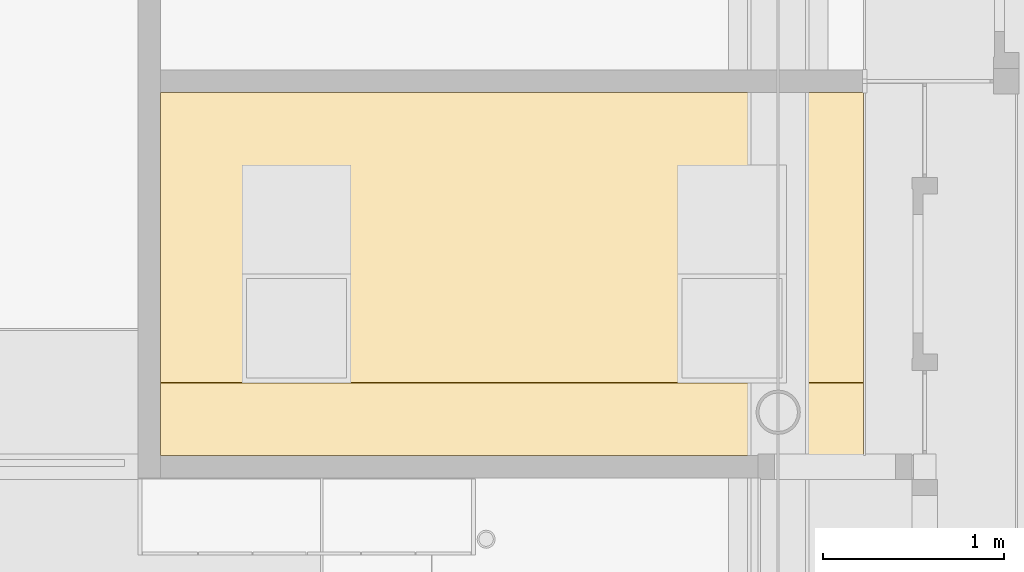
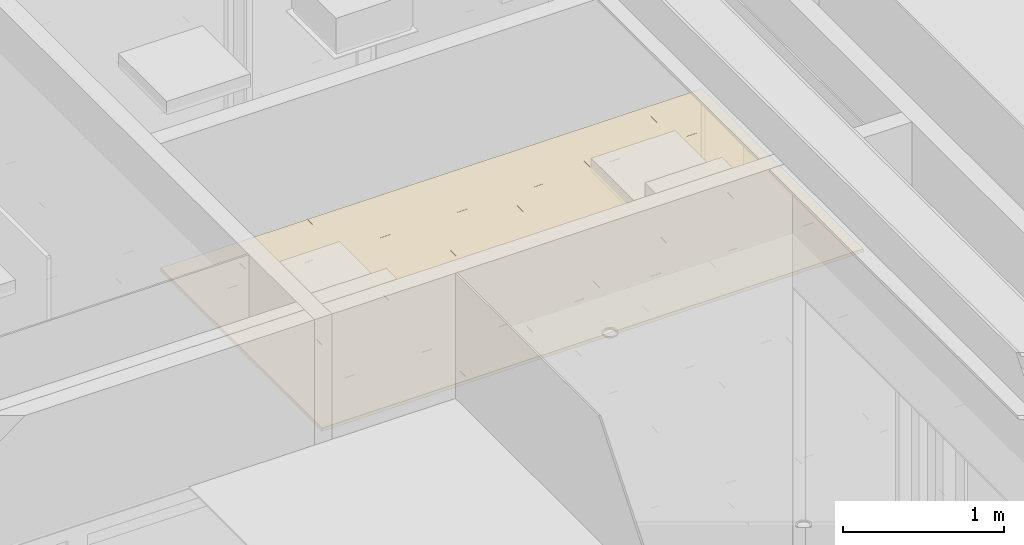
# One storey, part 172 of 347: 1 covering.
"""IFC2X3 building model written with IfcOpenShell, lengths in millimetres."""

from ifc_helpers import new_model, entity, si_unit, converted_unit, derived_unit, money_unit, direction, frame, origin_with_axes, place, context, subcontext, project, spatial, faceted_brep, type_object, element, save


model = new_model("IFC2X3")

# Units and contexts
model_context = context("Model", 3, precision=0.01, world=origin_with_axes(), true_north=direction((0.0, 1.0)))
plan_context = context("Plan", 3, precision=0.01, world=origin_with_axes(), true_north=direction((0.0, 1.0)))
body_context = subcontext(model_context, "Body", "Model", "MODEL_VIEW")
ifc_project = project(units=[si_unit("LENGTHUNIT", "METRE", prefix="MILLI"), si_unit("AREAUNIT", "SQUARE_METRE"), si_unit("VOLUMEUNIT", "CUBIC_METRE"), converted_unit("PLANEANGLEUNIT", "DEGREE", entity("IfcPlaneAngleMeasure", 0.0174532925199), si_unit("PLANEANGLEUNIT", "RADIAN"), dimensions=[0, 0, 0, 0, 0, 0, 0]), money_unit("EUR"), converted_unit("TIMEUNIT", "Year", entity("IfcTimeMeasure", 31556926.0), si_unit("TIMEUNIT", "SECOND"), dimensions=[0, 0, 1, 0, 0, 0, 0]), si_unit("MASSUNIT", "GRAM", prefix="KILO"), si_unit("THERMODYNAMICTEMPERATUREUNIT", "DEGREE_CELSIUS"), si_unit("LUMINOUSINTENSITYUNIT", "LUMEN"), si_unit("ENERGYUNIT", "JOULE", prefix="MEGA"), derived_unit("THERMALCONDUCTANCEUNIT", [(si_unit("POWERUNIT", "WATT"), 1), (si_unit("LENGTHUNIT", "METRE"), -1), (si_unit("THERMODYNAMICTEMPERATUREUNIT", "KELVIN"), -1)]), derived_unit("SPECIFICHEATCAPACITYUNIT", [(si_unit("ENERGYUNIT", "JOULE"), 1), (si_unit("MASSUNIT", "GRAM", prefix="KILO"), -1), (si_unit("THERMODYNAMICTEMPERATUREUNIT", "KELVIN"), -1)]), derived_unit("MASSDENSITYUNIT", [(si_unit("MASSUNIT", "GRAM", prefix="KILO"), 1), (si_unit("VOLUMEUNIT", "CUBIC_METRE"), -1)])], contexts=[model_context, plan_context])

# Site, building, storey
site_placement = place(None, origin_with_axes())
site = spatial("IfcSite", under=ifc_project, at=site_placement, Name="Site", CompositionType="ELEMENT")
building_placement = place(site_placement, origin_with_axes())
building = spatial("IfcBuilding", under=site, at=building_placement, Name="Naam gebouw", CompositionType="ELEMENT")
storey_placement = place(building_placement, origin_with_axes())
storey = spatial("IfcBuildingStorey", under=building, at=storey_placement, Name="begane grond", CompositionType="ELEMENT", Elevation=0.0)

# Covering
covering_type = type_object("IfcCoveringType", Name="Ceiling Editor INT_v2.01", PredefinedType="CEILING")
covering_placement = place(storey_placement, frame((32200.0, 39087.5, 2600.0), z_axis=(0.0, 0.0, 1.0), x_axis=(1.0, 0.0, 0.0)))
element("IfcCovering", 1, at=covering_placement, inside=storey, type_object=covering_type, Name="45 Plafondafwerkingen_77 garderobe", PredefinedType="CEILING", context=body_context, shape_type="Brep", body=[
    faceted_brep([(0.0, 0.0, 20.0), (449.9, 0.0, 20.0), (449.9, 399.9, 20.0), (0.0, 399.9, 20.0), (0.0, 0.0, 0.0), (449.9, 0.0, 0.0), (449.9, 399.9, 0.0), (0.0, 399.9, 0.0)], [[[0, 1, 2, 3]], [[1, 0, 4, 5]], [[1, 5, 6, 2]], [[7, 3, 2, 6]], [[3, 7, 4, 0]], [[4, 7, 6, 5]]]),
    faceted_brep([(0.0, 1599.9, 0.0), (0.0, 1599.9, 20.0), (449.9, 1599.9, 20.0), (449.9, 1599.9, 0.0), (0.0, 1500.0, 0.0), (0.0, 1500.0, 20.0), (0.0, 500.0, 20.0), (0.0, 400.1, 20.0), (449.9, 400.1, 20.0), (0.0, 1000.0, 20.0), (449.9, 400.1, 0.0), (0.0, 400.1, 0.0), (0.0, 500.0, 0.0), (0.0, 1000.0, 0.0)], [[[0, 1, 2, 3]], [[1, 0, 4, 5]], [[6, 7, 8, 2, 1, 5, 9]], [[8, 10, 3, 2]], [[4, 0, 3, 10, 11, 12, 13]], [[9, 5, 4, 13]], [[7, 6, 12, 11]], [[7, 11, 10, 8]], [[6, 9, 13, 12]]]),
    faceted_brep([(449.9, 2000.0, 0.0), (449.9, 2000.0, 20.0), (449.9, 1600.1, 20.0), (449.9, 1600.1, 0.0), (0.0, 2000.0, 0.0), (0.0, 2000.0, 20.0), (0.0, 1600.1, 20.0), (0.0, 1600.1, 0.0)], [[[0, 1, 2, 3]], [[1, 0, 4, 5]], [[5, 6, 2, 1]], [[6, 7, 3, 2]], [[4, 0, 3, 7]], [[6, 5, 4, 7]]]),
    faceted_brep([(968.75, 0.0, 20.0), (1049.9, 0.0, 20.0), (1049.9, 399.9, 20.0), (450.1, 399.9, 20.0), (450.1, 0.0, 20.0), (968.75, 0.0, 0.0), (1049.9, 0.0, 0.0), (1049.9, 399.9, 0.0), (450.1, 399.9, 0.0), (450.1, 0.0, 0.0)], [[[0, 1, 2, 3, 4]], [[1, 0, 5, 6]], [[1, 6, 7, 2]], [[2, 7, 8, 3]], [[9, 4, 3, 8]], [[0, 4, 9, 5]], [[5, 9, 8, 7, 6]]]),
    faceted_brep([(1049.9, 400.1, 20.0), (1049.9, 400.1, 0.0), (1049.9, 1599.9, 0.0), (1049.9, 1599.9, 20.0), (450.1, 400.1, 20.0), (450.1, 400.1, 0.0), (450.1, 1599.9, 0.0), (450.1, 1599.9, 20.0)], [[[0, 1, 2, 3]], [[4, 5, 1, 0]], [[2, 1, 5, 6]], [[3, 2, 6, 7]], [[4, 0, 3, 7]], [[7, 6, 5, 4]]]),
    faceted_brep([(1049.9, 2000.0, 0.0), (1049.9, 2000.0, 20.0), (1049.9, 1600.1, 20.0), (1049.9, 1600.1, 0.0), (968.75, 2000.0, 0.0), (968.75, 2000.0, 20.0), (450.1, 2000.0, 20.0), (450.1, 1600.1, 20.0), (450.1, 1600.1, 0.0), (450.1, 2000.0, 0.0)], [[[0, 1, 2, 3]], [[1, 0, 4, 5]], [[5, 6, 7, 2, 1]], [[7, 8, 3, 2]], [[4, 0, 3, 8, 9]], [[6, 5, 4, 9]], [[6, 9, 8, 7]]]),
    faceted_brep([(1050.1, 0.0, 20.0), (1649.9, 0.0, 20.0), (1649.9, 399.9, 20.0), (1050.1, 399.9, 20.0), (1050.1, 0.0, 0.0), (1649.9, 0.0, 0.0), (1649.9, 399.9, 0.0), (1050.1, 399.9, 0.0)], [[[0, 1, 2, 3]], [[1, 0, 4, 5]], [[1, 5, 6, 2]], [[2, 6, 7, 3]], [[4, 0, 3, 7]], [[5, 4, 7, 6]]]),
    faceted_brep([(1649.9, 400.1, 20.0), (1649.9, 400.1, 0.0), (1649.9, 1599.9, 0.0), (1649.9, 1599.9, 20.0), (1050.1, 400.1, 20.0), (1050.1, 400.1, 0.0), (1050.1, 1599.9, 0.0), (1050.1, 1599.9, 20.0)], [[[0, 1, 2, 3]], [[4, 5, 1, 0]], [[2, 1, 5, 6]], [[3, 2, 6, 7]], [[4, 0, 3, 7]], [[7, 6, 5, 4]]]),
    faceted_brep([(1649.9, 2000.0, 0.0), (1649.9, 2000.0, 20.0), (1649.9, 1600.1, 20.0), (1649.9, 1600.1, 0.0), (1050.1, 2000.0, 0.0), (1050.1, 2000.0, 20.0), (1050.1, 1600.1, 20.0), (1050.1, 1600.1, 0.0)], [[[0, 1, 2, 3]], [[1, 0, 4, 5]], [[1, 5, 6, 2]], [[6, 7, 3, 2]], [[4, 0, 3, 7]], [[5, 4, 7, 6]]]),
    faceted_brep([(1937.5, 0.0, 20.0), (2249.9, 0.0, 20.0), (2249.9, 399.9, 20.0), (1650.1, 399.9, 20.0), (1650.1, 0.0, 20.0), (1937.5, 0.0, 0.0), (2249.9, 0.0, 0.0), (2249.9, 399.9, 0.0), (1650.1, 399.9, 0.0), (1650.1, 0.0, 0.0)], [[[0, 1, 2, 3, 4]], [[1, 0, 5, 6]], [[1, 6, 7, 2]], [[2, 7, 8, 3]], [[9, 4, 3, 8]], [[0, 4, 9, 5]], [[5, 9, 8, 7, 6]]]),
    faceted_brep([(2249.9, 400.1, 20.0), (2249.9, 400.1, 0.0), (2249.9, 1599.9, 0.0), (2249.9, 1599.9, 20.0), (1650.1, 400.1, 20.0), (1650.1, 400.1, 0.0), (1650.1, 1599.9, 0.0), (1650.1, 1599.9, 20.0)], [[[0, 1, 2, 3]], [[4, 5, 1, 0]], [[2, 1, 5, 6]], [[3, 2, 6, 7]], [[4, 0, 3, 7]], [[7, 6, 5, 4]]]),
    faceted_brep([(2249.9, 2000.0, 0.0), (2249.9, 2000.0, 20.0), (2249.9, 1600.1, 20.0), (2249.9, 1600.1, 0.0), (1937.5, 2000.0, 0.0), (1937.5, 2000.0, 20.0), (1650.1, 2000.0, 20.0), (1650.1, 1600.1, 20.0), (1650.1, 1600.1, 0.0), (1650.1, 2000.0, 0.0)], [[[0, 1, 2, 3]], [[1, 0, 4, 5]], [[5, 6, 7, 2, 1]], [[7, 8, 3, 2]], [[4, 0, 3, 8, 9]], [[6, 5, 4, 9]], [[6, 9, 8, 7]]]),
    faceted_brep([(2250.1, 0.0, 20.0), (2849.9, 0.0, 20.0), (2849.9, 399.9, 20.0), (2250.1, 399.9, 20.0), (2250.1, 0.0, 0.0), (2849.9, 0.0, 0.0), (2849.9, 399.9, 0.0), (2250.1, 399.9, 0.0)], [[[0, 1, 2, 3]], [[1, 0, 4, 5]], [[1, 5, 6, 2]], [[2, 6, 7, 3]], [[4, 0, 3, 7]], [[5, 4, 7, 6]]]),
    faceted_brep([(2849.9, 400.1, 20.0), (2849.9, 400.1, 0.0), (2849.9, 1599.9, 0.0), (2849.9, 1599.9, 20.0), (2250.1, 400.1, 20.0), (2250.1, 400.1, 0.0), (2250.1, 1599.9, 0.0), (2250.1, 1599.9, 20.0)], [[[0, 1, 2, 3]], [[4, 5, 1, 0]], [[2, 1, 5, 6]], [[3, 2, 6, 7]], [[4, 0, 3, 7]], [[7, 6, 5, 4]]]),
    faceted_brep([(2849.9, 2000.0, 0.0), (2849.9, 2000.0, 20.0), (2849.9, 1600.1, 20.0), (2849.9, 1600.1, 0.0), (2250.1, 2000.0, 0.0), (2250.1, 2000.0, 20.0), (2250.1, 1600.1, 20.0), (2250.1, 1600.1, 0.0)], [[[0, 1, 2, 3]], [[1, 0, 4, 5]], [[1, 5, 6, 2]], [[6, 7, 3, 2]], [[4, 0, 3, 7]], [[5, 4, 7, 6]]]),
    faceted_brep([(2906.25, 0.0, 20.0), (3449.9, 0.0, 20.0), (3449.9, 399.9, 20.0), (2850.1, 399.9, 20.0), (2850.1, 0.0, 20.0), (2906.25, 0.0, 0.0), (3449.9, 0.0, 0.0), (3449.9, 399.9, 0.0), (2850.1, 399.9, 0.0), (2850.1, 0.0, 0.0)], [[[0, 1, 2, 3, 4]], [[1, 0, 5, 6]], [[1, 6, 7, 2]], [[2, 7, 8, 3]], [[9, 4, 3, 8]], [[0, 4, 9, 5]], [[5, 9, 8, 7, 6]]]),
    faceted_brep([(3449.9, 400.1, 20.0), (3449.9, 400.1, 0.0), (3449.9, 1599.9, 0.0), (3449.9, 1599.9, 20.0), (2850.1, 400.1, 20.0), (2850.1, 400.1, 0.0), (2850.1, 1599.9, 0.0), (2850.1, 1599.9, 20.0)], [[[0, 1, 2, 3]], [[4, 5, 1, 0]], [[2, 1, 5, 6]], [[3, 2, 6, 7]], [[4, 0, 3, 7]], [[7, 6, 5, 4]]]),
    faceted_brep([(3449.9, 2000.0, 0.0), (3449.9, 2000.0, 20.0), (3449.9, 1600.1, 20.0), (3449.9, 1600.1, 0.0), (2906.25, 2000.0, 0.0), (2906.25, 2000.0, 20.0), (2850.1, 2000.0, 20.0), (2850.1, 1600.1, 20.0), (2850.1, 1600.1, 0.0), (2850.1, 2000.0, 0.0)], [[[0, 1, 2, 3]], [[1, 0, 4, 5]], [[5, 6, 7, 2, 1]], [[7, 8, 3, 2]], [[4, 0, 3, 8, 9]], [[6, 5, 4, 9]], [[6, 9, 8, 7]]]),
    faceted_brep([(3875.0, 0.0, 20.0), (3875.0, 399.9, 20.0), (3450.1, 399.9, 20.0), (3450.1, 0.0, 20.0), (3875.0, 0.0, 0.0), (3875.0, 399.9, 0.0), (3450.1, 399.9, 0.0), (3450.1, 0.0, 0.0)], [[[0, 1, 2, 3]], [[1, 0, 4, 5]], [[1, 5, 6, 2]], [[7, 3, 2, 6]], [[0, 3, 7, 4]], [[4, 7, 6, 5]]]),
    faceted_brep([(3875.0, 1500.0, 20.0), (3875.0, 1599.9, 20.0), (3450.1, 1599.9, 20.0), (3450.1, 400.1, 20.0), (3875.0, 400.1, 20.0), (3875.0, 500.0, 20.0), (3875.0, 1000.0, 20.0), (3875.0, 1500.0, 0.0), (3875.0, 1599.9, 0.0), (3450.1, 1599.9, 0.0), (3450.1, 400.1, 0.0), (3875.0, 400.1, 0.0), (3875.0, 500.0, 0.0), (3875.0, 1000.0, 0.0)], [[[0, 1, 2, 3, 4, 5, 6]], [[1, 0, 7, 8]], [[1, 8, 9, 2]], [[2, 9, 10, 3]], [[11, 4, 3, 10]], [[5, 4, 11, 12]], [[6, 5, 12, 13]], [[0, 6, 13, 7]], [[12, 11, 10, 9, 8, 7, 13]]]),
    faceted_brep([(3875.0, 1600.1, 20.0), (3875.0, 2000.0, 20.0), (3450.1, 2000.0, 20.0), (3450.1, 1600.1, 20.0), (3875.0, 1600.1, 0.0), (3875.0, 2000.0, 0.0), (3450.1, 2000.0, 0.0), (3450.1, 1600.1, 0.0)], [[[0, 1, 2, 3]], [[1, 0, 4, 5]], [[2, 1, 5, 6]], [[2, 6, 7, 3]], [[4, 0, 3, 7]], [[5, 4, 7, 6]]]),
    faceted_brep([(3875.0, 0.0, 0.0), (3875.0, 0.0, -5.0), (3875.0, 387.5, -5.0), (3875.0, 412.5, -5.0), (3875.0, 1587.5, -5.0), (3875.0, 1612.5, -5.0), (3875.0, 2000.0, -5.0), (3875.0, 2000.0, 0.0), (3875.0, 1612.5, 0.0), (3875.0, 1587.5, 0.0), (3875.0, 412.5, 0.0), (3875.0, 387.5, 0.0), (1662.5, 0.0, -5.0), (2237.5, 0.0, -5.0), (2262.5, 0.0, -5.0), (2837.5, 0.0, -5.0), (2862.5, 0.0, -5.0), (3437.5, 0.0, -5.0), (3462.5, 0.0, -5.0), (3462.5, 0.0, 0.0), (3437.5, 0.0, 0.0), (2862.5, 0.0, 0.0), (2837.5, 0.0, 0.0), (2262.5, 0.0, 0.0), (2237.5, 0.0, 0.0), (1662.5, 0.0, 0.0), (1637.5, 0.0, 0.0), (1062.5, 0.0, 0.0), (1037.5, 0.0, 0.0), (462.5, 0.0, 0.0), (437.5, 0.0, 0.0), (0.0, 0.0, 0.0), (0.0, 0.0, -5.0), (437.5, 0.0, -5.0), (462.5, 0.0, -5.0), (1037.5, 0.0, -5.0), (1062.5, 0.0, -5.0), (1637.5, 0.0, -5.0), (0.0, 387.5, -5.0), (0.0, 412.5, -5.0), (0.0, 1587.5, -5.0), (0.0, 1612.5, -5.0), (0.0, 2000.0, -5.0), (437.5, 2000.0, -5.0), (462.5, 2000.0, -5.0), (1037.5, 2000.0, -5.0), (1062.5, 2000.0, -5.0), (1637.5, 2000.0, -5.0), (1662.5, 2000.0, -5.0), (2237.5, 2000.0, -5.0), (2262.5, 2000.0, -5.0), (2837.5, 2000.0, -5.0), (2862.5, 2000.0, -5.0), (3437.5, 2000.0, -5.0), (3462.5, 2000.0, -5.0), (462.5, 412.5, -5.0), (1037.5, 412.5, -5.0), (1037.5, 1587.5, -5.0), (462.5, 1587.5, -5.0), (1062.5, 412.5, -5.0), (1637.5, 412.5, -5.0), (1637.5, 1587.5, -5.0), (1062.5, 1587.5, -5.0), (1662.5, 412.5, -5.0), (2237.5, 412.5, -5.0), (2237.5, 1587.5, -5.0), (1662.5, 1587.5, -5.0), (2262.5, 412.5, -5.0), (2837.5, 412.5, -5.0), (2837.5, 1587.5, -5.0), (2262.5, 1587.5, -5.0), (2862.5, 412.5, -5.0), (3437.5, 412.5, -5.0), (3437.5, 1587.5, -5.0), (2862.5, 1587.5, -5.0), (25.0, 387.5, -5.0), (25.0, 25.0, -5.0), (437.5, 25.0, -5.0), (437.5, 387.5, -5.0), (25.0, 1587.5, -5.0), (25.0, 412.5, -5.0), (437.5, 412.5, -5.0), (437.5, 1587.5, -5.0), (437.5, 1975.0, -5.0), (25.0, 1975.0, -5.0), (25.0, 1612.5, -5.0), (437.5, 1612.5, -5.0), (1037.5, 1975.0, -5.0), (462.5, 1975.0, -5.0), (462.5, 1612.5, -5.0), (1037.5, 1612.5, -5.0), (1637.5, 1975.0, -5.0), (1062.5, 1975.0, -5.0), (1062.5, 1612.5, -5.0), (1637.5, 1612.5, -5.0), (2237.5, 1975.0, -5.0), (1662.5, 1975.0, -5.0), (1662.5, 1612.5, -5.0), (2237.5, 1612.5, -5.0), (2837.5, 1975.0, -5.0), (2262.5, 1975.0, -5.0), (2262.5, 1612.5, -5.0), (2837.5, 1612.5, -5.0), (3437.5, 1975.0, -5.0), (2862.5, 1975.0, -5.0), (2862.5, 1612.5, -5.0), (3437.5, 1612.5, -5.0), (3850.0, 1975.0, -5.0), (3462.5, 1975.0, -5.0), (3462.5, 1612.5, -5.0), (3850.0, 1612.5, -5.0), (3850.0, 1587.5, -5.0), (3462.5, 1587.5, -5.0), (3462.5, 412.5, -5.0), (3850.0, 412.5, -5.0), (3850.0, 25.0, -5.0), (3850.0, 387.5, -5.0), (3462.5, 387.5, -5.0), (3462.5, 25.0, -5.0), (2837.5, 25.0, -5.0), (2837.5, 387.5, -5.0), (2262.5, 387.5, -5.0), (2262.5, 25.0, -5.0), (3437.5, 25.0, -5.0), (3437.5, 387.5, -5.0), (2862.5, 387.5, -5.0), (2862.5, 25.0, -5.0), (1037.5, 25.0, -5.0), (1037.5, 387.5, -5.0), (462.5, 387.5, -5.0), (462.5, 25.0, -5.0), (1637.5, 25.0, -5.0), (1637.5, 387.5, -5.0), (1062.5, 387.5, -5.0), (1062.5, 25.0, -5.0), (2237.5, 25.0, -5.0), (2237.5, 387.5, -5.0), (1662.5, 387.5, -5.0), (1662.5, 25.0, -5.0), (0.0, 2000.0, 0.0), (437.5, 2000.0, 0.0), (462.5, 2000.0, 0.0), (1037.5, 2000.0, 0.0), (1062.5, 2000.0, 0.0), (1637.5, 2000.0, 0.0), (1662.5, 2000.0, 0.0), (2237.5, 2000.0, 0.0), (2262.5, 2000.0, 0.0), (2837.5, 2000.0, 0.0), (2862.5, 2000.0, 0.0), (3437.5, 2000.0, 0.0), (3462.5, 2000.0, 0.0), (0.0, 1612.5, 0.0), (0.0, 1587.5, 0.0), (0.0, 412.5, 0.0), (0.0, 387.5, 0.0), (1037.5, 1587.5, 0.0), (1037.5, 412.5, 0.0), (462.5, 412.5, 0.0), (462.5, 1587.5, 0.0), (1637.5, 1587.5, 0.0), (1637.5, 412.5, 0.0), (1062.5, 412.5, 0.0), (1062.5, 1587.5, 0.0), (2237.5, 1587.5, 0.0), (2237.5, 412.5, 0.0), (1662.5, 412.5, 0.0), (1662.5, 1587.5, 0.0), (2837.5, 1587.5, 0.0), (2837.5, 412.5, 0.0), (2262.5, 412.5, 0.0), (2262.5, 1587.5, 0.0), (3437.5, 1587.5, 0.0), (3437.5, 412.5, 0.0), (2862.5, 412.5, 0.0), (2862.5, 1587.5, 0.0), (25.0, 387.5, 0.0), (437.5, 387.5, 0.0), (437.5, 25.0, 0.0), (25.0, 25.0, 0.0), (25.0, 1587.5, 0.0), (437.5, 1587.5, 0.0), (437.5, 412.5, 0.0), (25.0, 412.5, 0.0), (437.5, 1975.0, 0.0), (437.5, 1612.5, 0.0), (25.0, 1612.5, 0.0), (25.0, 1975.0, 0.0), (1037.5, 1975.0, 0.0), (1037.5, 1612.5, 0.0), (462.5, 1612.5, 0.0), (462.5, 1975.0, 0.0), (1637.5, 1975.0, 0.0), (1637.5, 1612.5, 0.0), (1062.5, 1612.5, 0.0), (1062.5, 1975.0, 0.0), (2237.5, 1975.0, 0.0), (2237.5, 1612.5, 0.0), (1662.5, 1612.5, 0.0), (1662.5, 1975.0, 0.0), (2837.5, 1975.0, 0.0), (2837.5, 1612.5, 0.0), (2262.5, 1612.5, 0.0), (2262.5, 1975.0, 0.0), (3437.5, 1975.0, 0.0), (3437.5, 1612.5, 0.0), (2862.5, 1612.5, 0.0), (2862.5, 1975.0, 0.0), (3850.0, 1975.0, 0.0), (3850.0, 1612.5, 0.0), (3462.5, 1612.5, 0.0), (3462.5, 1975.0, 0.0), (3850.0, 412.5, 0.0), (3462.5, 412.5, 0.0), (3462.5, 1587.5, 0.0), (3850.0, 1587.5, 0.0), (3850.0, 25.0, 0.0), (3462.5, 25.0, 0.0), (3462.5, 387.5, 0.0), (3850.0, 387.5, 0.0), (2837.5, 25.0, 0.0), (2262.5, 25.0, 0.0), (2262.5, 387.5, 0.0), (2837.5, 387.5, 0.0), (2862.5, 25.0, 0.0), (2862.5, 387.5, 0.0), (3437.5, 387.5, 0.0), (3437.5, 25.0, 0.0), (1037.5, 25.0, 0.0), (462.5, 25.0, 0.0), (462.5, 387.5, 0.0), (1037.5, 387.5, 0.0), (1637.5, 25.0, 0.0), (1062.5, 25.0, 0.0), (1062.5, 387.5, 0.0), (1637.5, 387.5, 0.0), (1662.5, 25.0, 0.0), (1662.5, 387.5, 0.0), (2237.5, 387.5, 0.0), (2237.5, 25.0, 0.0)], [[[0, 1, 2, 3, 4, 5, 6, 7, 8, 9, 10, 11]], [[12, 13, 14, 15, 16, 17, 18, 1, 0, 19, 20, 21, 22, 23, 24, 25, 26, 27, 28, 29, 30, 31, 32, 33, 34, 35, 36, 37]], [[12, 37, 36, 35, 34, 33, 32, 38, 39, 40, 41, 42, 43, 44, 45, 46, 47, 48, 49, 50, 51, 52, 53, 54, 6, 5, 4, 3, 2, 1, 18, 17, 16, 15, 14, 13], [55, 56, 57, 58], [59, 60, 61, 62], [63, 64, 65, 66], [67, 68, 69, 70], [71, 72, 73, 74], [75, 76, 77, 78], [79, 80, 81, 82], [83, 84, 85, 86], [87, 88, 89, 90], [91, 92, 93, 94], [95, 96, 97, 98], [99, 100, 101, 102], [103, 104, 105, 106], [107, 108, 109, 110], [111, 112, 113, 114], [115, 116, 117, 118], [119, 120, 121, 122], [123, 124, 125, 126], [127, 128, 129, 130], [131, 132, 133, 134], [135, 136, 137, 138]], [[7, 6, 54, 53, 52, 51, 50, 49, 48, 47, 46, 45, 44, 43, 42, 139, 140, 141, 142, 143, 144, 145, 146, 147, 148, 149, 150, 151]], [[24, 23, 22, 21, 20, 19, 0, 11, 10, 9, 8, 7, 151, 150, 149, 148, 147, 146, 145, 144, 143, 142, 141, 140, 139, 152, 153, 154, 155, 31, 30, 29, 28, 27, 26, 25], [156, 157, 158, 159], [160, 161, 162, 163], [164, 165, 166, 167], [168, 169, 170, 171], [172, 173, 174, 175], [176, 177, 178, 179], [180, 181, 182, 183], [184, 185, 186, 187], [188, 189, 190, 191], [192, 193, 194, 195], [196, 197, 198, 199], [200, 201, 202, 203], [204, 205, 206, 207], [208, 209, 210, 211], [212, 213, 214, 215], [216, 217, 218, 219], [220, 221, 222, 223], [224, 225, 226, 227], [228, 229, 230, 231], [232, 233, 234, 235], [236, 237, 238, 239]], [[139, 42, 41, 40, 39, 38, 32, 31, 155, 154, 153, 152]], [[158, 157, 56, 55]], [[57, 56, 157, 156]], [[58, 57, 156, 159]], [[159, 158, 55, 58]], [[162, 161, 60, 59]], [[61, 60, 161, 160]], [[62, 61, 160, 163]], [[163, 162, 59, 62]], [[166, 165, 64, 63]], [[65, 64, 165, 164]], [[66, 65, 164, 167]], [[167, 166, 63, 66]], [[170, 169, 68, 67]], [[69, 68, 169, 168]], [[70, 69, 168, 171]], [[171, 170, 67, 70]], [[174, 173, 72, 71]], [[73, 72, 173, 172]], [[74, 73, 172, 175]], [[175, 174, 71, 74]], [[75, 176, 179, 76]], [[76, 179, 178, 77]], [[77, 178, 177, 78]], [[176, 75, 78, 177]], [[79, 180, 183, 80]], [[80, 183, 182, 81]], [[82, 81, 182, 181]], [[180, 79, 82, 181]], [[83, 184, 187, 84]], [[84, 187, 186, 85]], [[85, 186, 185, 86]], [[184, 83, 86, 185]], [[87, 188, 191, 88]], [[88, 191, 190, 89]], [[190, 189, 90, 89]], [[188, 87, 90, 189]], [[91, 192, 195, 92]], [[92, 195, 194, 93]], [[194, 193, 94, 93]], [[192, 91, 94, 193]], [[95, 196, 199, 96]], [[96, 199, 198, 97]], [[198, 197, 98, 97]], [[196, 95, 98, 197]], [[99, 200, 203, 100]], [[100, 203, 202, 101]], [[202, 201, 102, 101]], [[200, 99, 102, 201]], [[103, 204, 207, 104]], [[104, 207, 206, 105]], [[206, 205, 106, 105]], [[204, 103, 106, 205]], [[107, 208, 211, 108]], [[108, 211, 210, 109]], [[209, 110, 109, 210]], [[208, 107, 110, 209]], [[111, 215, 214, 112]], [[214, 213, 113, 112]], [[212, 114, 113, 213]], [[212, 215, 111, 114]], [[115, 216, 219, 116]], [[116, 219, 218, 117]], [[217, 118, 117, 218]], [[216, 115, 118, 217]], [[119, 220, 223, 120]], [[121, 120, 223, 222]], [[221, 122, 121, 222]], [[220, 119, 122, 221]], [[123, 227, 226, 124]], [[125, 124, 226, 225]], [[224, 126, 125, 225]], [[224, 227, 123, 126]], [[127, 228, 231, 128]], [[129, 128, 231, 230]], [[229, 130, 129, 230]], [[228, 127, 130, 229]], [[131, 232, 235, 132]], [[133, 132, 235, 234]], [[233, 134, 133, 234]], [[232, 131, 134, 233]], [[135, 239, 238, 136]], [[137, 136, 238, 237]], [[236, 138, 137, 237]], [[236, 239, 135, 138]]]),
])

save(model, "model.ifc")
